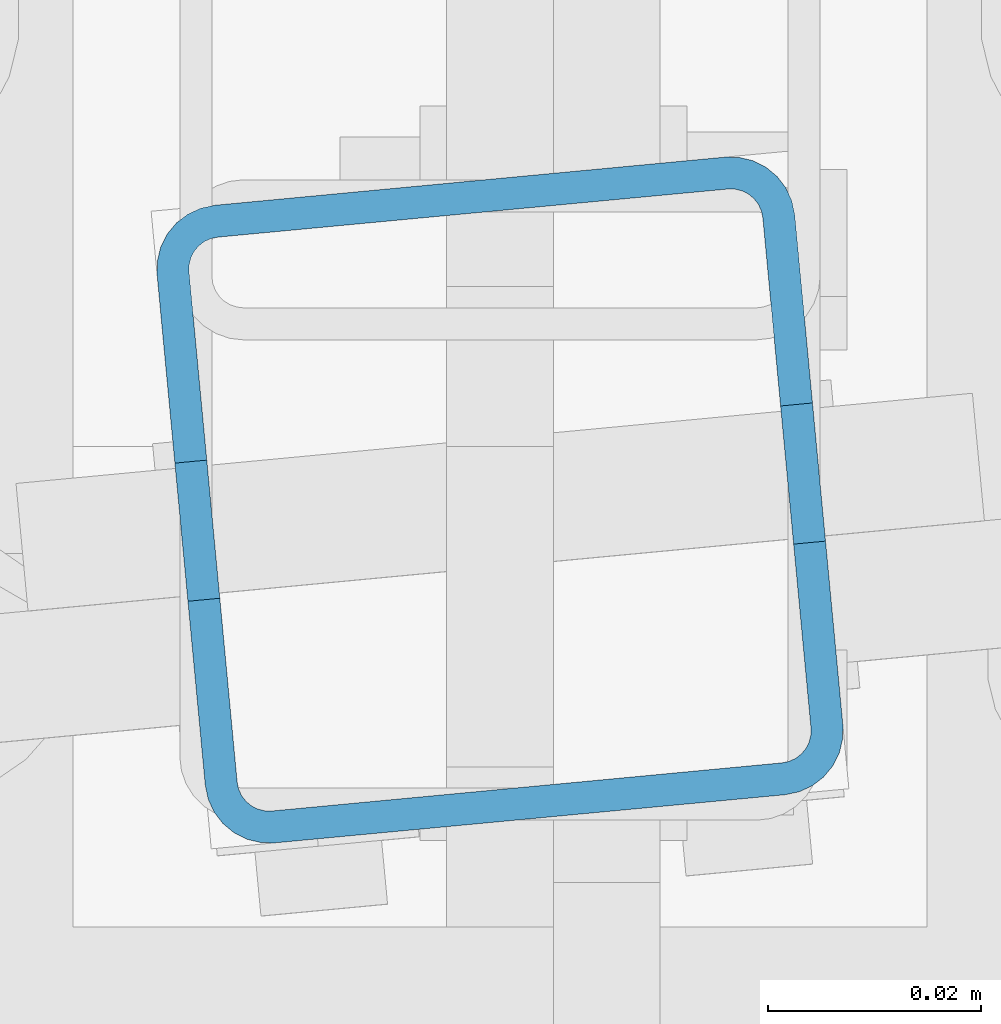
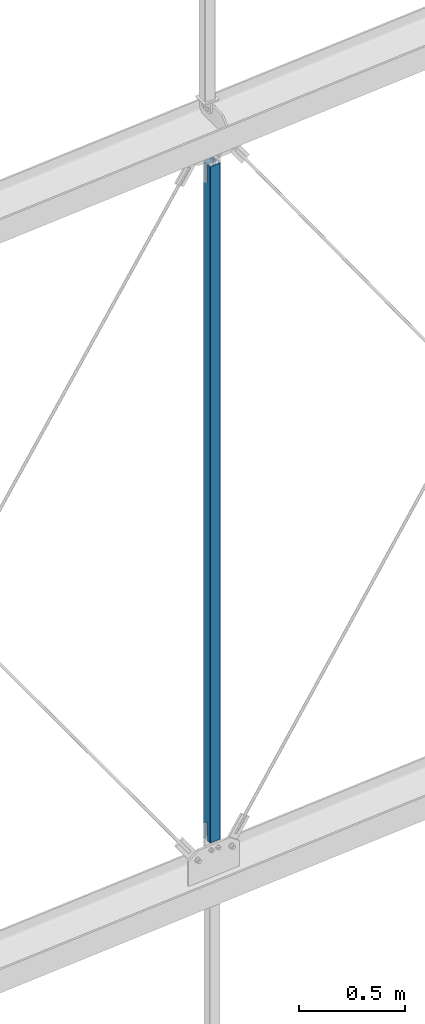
# One storey, part 50 of 271: 1 beam, 1 element without a shape of its own.
"""IFC2X3 building model written with IfcOpenShell, lengths in millimetres."""

from ifc_helpers import new_model, si_unit, frame, origin_with_axes, origin_2d_with_axis, place, context, subcontext, project, spatial, rectangle, hollow_rectangle, extrude, boolean, halfspace, material, type_object, element, aggregate, save


model = new_model("IFC2X3")

# Units and contexts
model_context = context("Model", 3, precision=1e-05, world=origin_with_axes())
body_context = subcontext(model_context, "Body", "Model", "MODEL_VIEW")
ifc_project = project(units=[si_unit("LENGTHUNIT", "METRE", prefix="MILLI"), si_unit("AREAUNIT", "SQUARE_METRE"), si_unit("VOLUMEUNIT", "CUBIC_METRE"), si_unit("MASSUNIT", "GRAM", prefix="KILO"), si_unit("TIMEUNIT", "SECOND"), si_unit("PLANEANGLEUNIT", "RADIAN"), si_unit("SOLIDANGLEUNIT", "STERADIAN"), si_unit("THERMODYNAMICTEMPERATUREUNIT", "DEGREE_CELSIUS"), si_unit("LUMINOUSINTENSITYUNIT", "LUMEN")], contexts=[model_context])

# Site, building, storey
site_placement = place(None, origin_with_axes())
site = spatial("IfcSite", under=ifc_project, at=site_placement, Name="Undefined", CompositionType="ELEMENT")
building_placement = place(site_placement, origin_with_axes())
building = spatial("IfcBuilding", under=site, at=building_placement, Name="Undefined", CompositionType="ELEMENT")
storey_placement = place(building_placement, origin_with_axes())
storey = spatial("IfcBuildingStorey", under=building, at=storey_placement, Name="Undefined", CompositionType="ELEMENT", Elevation=0.0)

# Assembly, beam
assembly_placement = place(storey_placement, origin_with_axes())
assembly = element("IfcElementAssembly", 1, at=assembly_placement, inside=storey, AssemblyPlace="NOTDEFINED", PredefinedType="RIGID_FRAME")
ifc_material = material(Name="STEEL/S355JR")
beam_type = type_object("IfcBeamType", Name="SHS60*3", PredefinedType="NOTDEFINED")
beam_placement = place(assembly_placement, frame((9528.37568709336, 4005.32498425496, 14324.3499999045), z_axis=(-0.093934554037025, 0.995578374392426, 0.0), x_axis=(0.0, 0.0, 1.0)))
beam = element("IfcBeam", 2, at=beam_placement, type_object=beam_type, material=ifc_material, Name="TĘŻNIK", ObjectType="SHS60*3", context=body_context, shape_type="CSG", body=[
    boolean("DIFFERENCE", boolean("DIFFERENCE", boolean("DIFFERENCE", boolean("DIFFERENCE", extrude(hollow_rectangle(XDim=60.0, YDim=60.0, WallThickness=3.0, InnerFilletRadius=3.0, OuterFilletRadius=6.0, at=origin_2d_with_axis()), frame((4320.0, 0.0, 9.09494701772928e-13), z_axis=(-1.0, 0.0, 1.38777878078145e-17), x_axis=(0.0, -1.0, 0.0)), (0.0, 0.0, 1.0), 4320.0), extrude(rectangle(XDim=13.0, YDim=64.0, at=origin_2d_with_axis()), frame((313.311489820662, -2.5758781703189e-06, -0.214439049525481), z_axis=(-1.0, 0.0, 1.38777878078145e-17), x_axis=(0.0, -1.20121738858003e-05, -0.999999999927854)), (0.0, 0.0, 1.0), 103.0)), extrude(rectangle(XDim=13.0, YDim=64.0, at=origin_2d_with_axis()), frame((4006.68738103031, -2.39669861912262e-06, -0.199525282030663), z_axis=(1.0, 0.0, 0.0), x_axis=(0.0, -1.20121738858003e-05, -0.999999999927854)), (0.0, 0.0, 1.0), 103.0)), halfspace(frame((4107.68738103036, -7.44697208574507e-05, -6.19952502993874), z_axis=(-1.0, 0.0, 1.38777878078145e-17), x_axis=(0.0, 0.999999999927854, -1.20121738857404e-05)), True)), halfspace(frame((212.311474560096, -0.000218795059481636, -18.2144390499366), z_axis=(1.0, 0.0, 0.0), x_axis=(0.0, -0.999999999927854, 1.20121738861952e-05)), True)),
])
aggregate(assembly, [beam])

save(model, "model.ifc")
